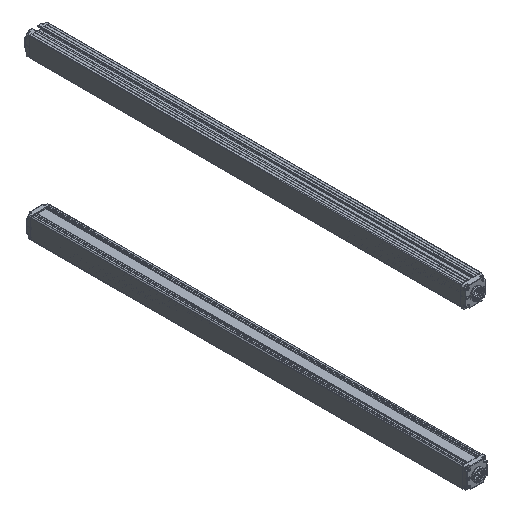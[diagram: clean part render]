
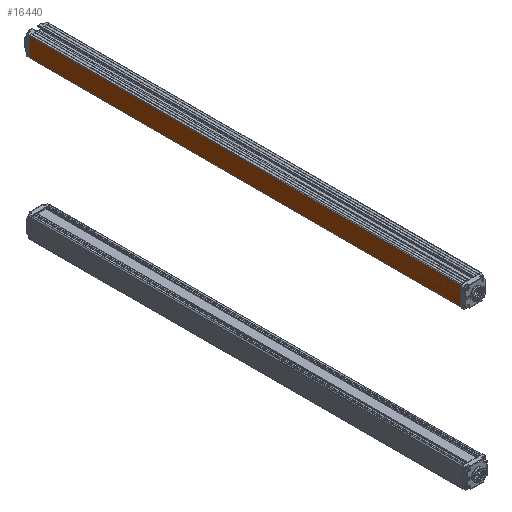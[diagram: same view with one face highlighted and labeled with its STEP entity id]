
A CAD part, isometric view. The second image highlights one B-rep face of the part: STEP entity #16440.
In plain terms, the highlighted planar face has unit normal (-1, 0, -0.009) as drawn and (-1, 0, 0) by its records, which use the part's own axes.
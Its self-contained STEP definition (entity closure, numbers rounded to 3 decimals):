
#240 = VERTEX_POINT ( 'NONE', #4093 ) ;
#1637 = VECTOR ( 'NONE', #9759, 1000. ) ;
#1701 = DIRECTION ( 'NONE',  ( 1., 0., 0. ) ) ;
#2520 = DIRECTION ( 'NONE',  ( 0., 0., 1. ) ) ;
#2865 = EDGE_CURVE ( 'NONE', #17692, #240, #17730, .T. ) ;
#2891 = EDGE_CURVE ( 'NONE', #240, #17958, #9424, .T. ) ;
#3068 = FACE_OUTER_BOUND ( 'NONE', #8766, .T. ) ;
#3172 = EDGE_CURVE ( 'NONE', #4350, #17958, #16016, .T. ) ;
#3534 = CARTESIAN_POINT ( 'NONE',  ( -15., 630., 10.9 ) ) ;
#3982 = CARTESIAN_POINT ( 'NONE',  ( -15., 0., 10.9 ) ) ;
#4093 = CARTESIAN_POINT ( 'NONE',  ( -15., 0., -16.693 ) ) ;
#4218 = CARTESIAN_POINT ( 'NONE',  ( -15., 630., -16.9 ) ) ;
#4350 = VERTEX_POINT ( 'NONE', #15640 ) ;
#5261 = CARTESIAN_POINT ( 'NONE',  ( -15., 630., -16.693 ) ) ;
#6943 = VECTOR ( 'NONE', #2520, 1000. ) ;
#7269 = DIRECTION ( 'NONE',  ( 0., 0., -1. ) ) ;
#7542 = AXIS2_PLACEMENT_3D ( 'NONE', #14176, #1701, #7269 ) ;
#7788 = VECTOR ( 'NONE', #9068, 1000. ) ;
#8071 = EDGE_CURVE ( 'NONE', #17692, #4350, #16697, .T. ) ;
#8623 = PLANE ( 'NONE',  #7542 ) ;
#8766 = EDGE_LOOP ( 'NONE', ( #10908, #11724, #14594, #16977 ) ) ;
#9068 = DIRECTION ( 'NONE',  ( 0., -1., 0. ) ) ;
#9424 = LINE ( 'NONE', #14998, #6943 ) ;
#9759 = DIRECTION ( 'NONE',  ( 0., 0., 1. ) ) ;
#10794 = DIRECTION ( 'NONE',  ( 0., -1., 0. ) ) ;
#10908 = ORIENTED_EDGE ( 'NONE', *, *, #8071, .F. ) ;
#11560 = VECTOR ( 'NONE', #10794, 1000. ) ;
#11724 = ORIENTED_EDGE ( 'NONE', *, *, #2865, .T. ) ;
#14176 = CARTESIAN_POINT ( 'NONE',  ( -15., 630., -16.9 ) ) ;
#14594 = ORIENTED_EDGE ( 'NONE', *, *, #2891, .T. ) ;
#14998 = CARTESIAN_POINT ( 'NONE',  ( -15., 0., -16.9 ) ) ;
#15640 = CARTESIAN_POINT ( 'NONE',  ( -15., 630., 10.9 ) ) ;
#16016 = LINE ( 'NONE', #3534, #7788 ) ;
#16440 = ADVANCED_FACE ( 'NONE', ( #3068 ), #8623, .F. ) ;
#16697 = LINE ( 'NONE', #4218, #1637 ) ;
#16977 = ORIENTED_EDGE ( 'NONE', *, *, #3172, .F. ) ;
#17111 = CARTESIAN_POINT ( 'NONE',  ( -15., 630., -16.693 ) ) ;
#17692 = VERTEX_POINT ( 'NONE', #17111 ) ;
#17730 = LINE ( 'NONE', #5261, #11560 ) ;
#17958 = VERTEX_POINT ( 'NONE', #3982 ) ;
